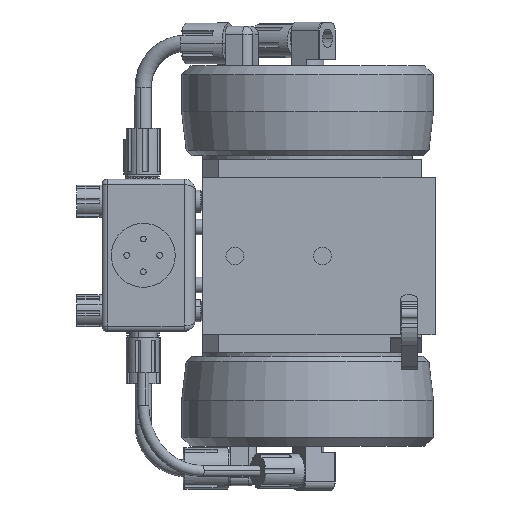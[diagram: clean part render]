
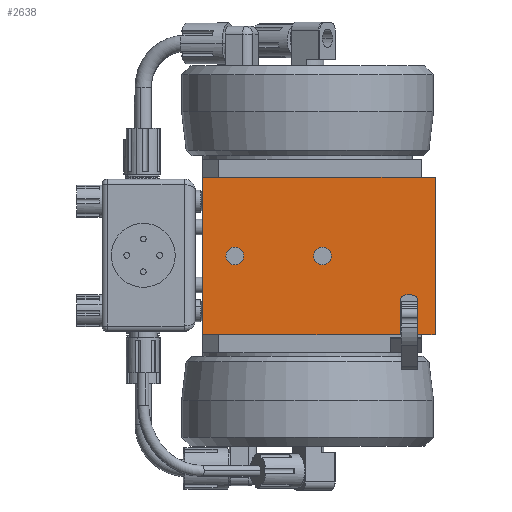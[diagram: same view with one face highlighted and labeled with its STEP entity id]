
A CAD part, front view. The second image highlights one B-rep face of the part: STEP entity #2638.
In plain terms, the highlighted planar face has unit normal (0, -1, 0).
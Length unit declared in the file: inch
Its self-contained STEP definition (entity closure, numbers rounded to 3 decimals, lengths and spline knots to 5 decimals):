
#2638 = ADVANCED_FACE ( 'NONE', ( #23631, #23601, #23636 ), #34242, .T. ) ;
#8516 = AXIS2_PLACEMENT_3D ( 'NONE', #34240, #34238, #34243 ) ;
#9225 = EDGE_CURVE ( 'NONE', #39671, #39319, #30497, .T. ) ;
#9229 = EDGE_CURVE ( 'NONE', #39237, #39551, #30499, .T. ) ;
#9232 = EDGE_CURVE ( 'NONE', #39376, #39520, #30500, .T. ) ;
#9235 = EDGE_CURVE ( 'NONE', #39497, #39520, #30501, .T. ) ;
#9238 = EDGE_CURVE ( 'NONE', #39497, #39506, #30503, .T. ) ;
#9241 = EDGE_CURVE ( 'NONE', #39506, #39348, #30505, .T. ) ;
#9244 = EDGE_CURVE ( 'NONE', #39348, #39526, #30507, .T. ) ;
#9248 = EDGE_CURVE ( 'NONE', #39526, #39406, #30491, .T. ) ;
#9252 = EDGE_CURVE ( 'NONE', #39406, #39395, #30510, .T. ) ;
#9255 = EDGE_CURVE ( 'NONE', #39331, #39395, #30508, .T. ) ;
#9258 = EDGE_CURVE ( 'NONE', #39524, #39331, #30511, .T. ) ;
#9261 = EDGE_CURVE ( 'NONE', #39376, #39524, #30515, .T. ) ;
#11066 = EDGE_LOOP ( 'NONE', ( #46380, #46381 ) ) ;
#11183 = EDGE_LOOP ( 'NONE', ( #46378, #46379 ) ) ;
#11225 = EDGE_LOOP ( 'NONE', ( #46382, #46383, #46384, #46385, #46386, #46387, #46388, #46389, #46390, #46391 ) ) ;
#16047 = EDGE_CURVE ( 'NONE', #39319, #39671, #16440, .T. ) ;
#16052 = EDGE_CURVE ( 'NONE', #39551, #39237, #16451, .T. ) ;
#16440 = CIRCLE ( 'NONE', #38559, 0.203 ) ;
#16451 = CIRCLE ( 'NONE', #38561, 0.203 ) ;
#23601 = FACE_BOUND ( 'NONE', #11066, .T. ) ;
#23631 = FACE_BOUND ( 'NONE', #11183, .T. ) ;
#23636 = FACE_OUTER_BOUND ( 'NONE', #11225, .T. ) ;
#30491 = CIRCLE ( 'NONE', #38178, 0.125 ) ;
#30497 = CIRCLE ( 'NONE', #38175, 0.203 ) ;
#30499 = CIRCLE ( 'NONE', #38176, 0.203 ) ;
#30500 = LINE ( 'NONE', #40375, #30502 ) ;
#30501 = LINE ( 'NONE', #40352, #30504 ) ;
#30502 = VECTOR ( 'NONE', #40377, 39.37008 ) ;
#30503 = LINE ( 'NONE', #40386, #30506 ) ;
#30504 = VECTOR ( 'NONE', #40368, 39.37008 ) ;
#30505 = CIRCLE ( 'NONE', #38177, 0.125 ) ;
#30506 = VECTOR ( 'NONE', #40384, 39.37008 ) ;
#30507 = LINE ( 'NONE', #40392, #30509 ) ;
#30508 = LINE ( 'NONE', #40406, #30514 ) ;
#30509 = VECTOR ( 'NONE', #40390, 39.37008 ) ;
#30510 = LINE ( 'NONE', #40408, #30512 ) ;
#30511 = LINE ( 'NONE', #40415, #30516 ) ;
#30512 = VECTOR ( 'NONE', #40404, 39.37008 ) ;
#30514 = VECTOR ( 'NONE', #40416, 39.37008 ) ;
#30515 = LINE ( 'NONE', #40421, #30518 ) ;
#30516 = VECTOR ( 'NONE', #40395, 39.37008 ) ;
#30518 = VECTOR ( 'NONE', #40419, 39.37008 ) ;
#34238 = DIRECTION ( 'NONE',  ( 0., -1., 0. ) ) ;
#34240 = CARTESIAN_POINT ( 'NONE',  ( -2.898, -3.023, 1.795 ) ) ;
#34242 = PLANE ( 'NONE',  #8516 ) ;
#34243 = DIRECTION ( 'NONE',  ( 0., 0., -1. ) ) ;
#38175 = AXIS2_PLACEMENT_3D ( 'NONE', #40370, #40372, #40373 ) ;
#38176 = AXIS2_PLACEMENT_3D ( 'NONE', #40378, #40380, #40382 ) ;
#38177 = AXIS2_PLACEMENT_3D ( 'NONE', #40397, #40399, #40401 ) ;
#38178 = AXIS2_PLACEMENT_3D ( 'NONE', #40409, #40411, #40413 ) ;
#38559 = AXIS2_PLACEMENT_3D ( 'NONE', #51960, #51961, #51962 ) ;
#38561 = AXIS2_PLACEMENT_3D ( 'NONE', #51968, #51969, #51970 ) ;
#39237 = VERTEX_POINT ( 'NONE', #49392 ) ;
#39319 = VERTEX_POINT ( 'NONE', #49474 ) ;
#39331 = VERTEX_POINT ( 'NONE', #49486 ) ;
#39348 = VERTEX_POINT ( 'NONE', #49503 ) ;
#39376 = VERTEX_POINT ( 'NONE', #49531 ) ;
#39395 = VERTEX_POINT ( 'NONE', #56821 ) ;
#39406 = VERTEX_POINT ( 'NONE', #56838 ) ;
#39497 = VERTEX_POINT ( 'NONE', #56988 ) ;
#39506 = VERTEX_POINT ( 'NONE', #57004 ) ;
#39520 = VERTEX_POINT ( 'NONE', #57026 ) ;
#39524 = VERTEX_POINT ( 'NONE', #57034 ) ;
#39526 = VERTEX_POINT ( 'NONE', #57038 ) ;
#39551 = VERTEX_POINT ( 'NONE', #57077 ) ;
#39671 = VERTEX_POINT ( 'NONE', #57270 ) ;
#40352 = CARTESIAN_POINT ( 'NONE',  ( -2.898, -3.023, -1.795 ) ) ;
#40368 = DIRECTION ( 'NONE',  ( -1., 0., 0. ) ) ;
#40370 = CARTESIAN_POINT ( 'NONE',  ( 0.342, -3.023, 0. ) ) ;
#40372 = DIRECTION ( 'NONE',  ( 0., 1., 0. ) ) ;
#40373 = DIRECTION ( 'NONE',  ( 0., 0., 1. ) ) ;
#40375 = CARTESIAN_POINT ( 'NONE',  ( -2.398, -3.023, 1.795 ) ) ;
#40377 = DIRECTION ( 'NONE',  ( 0., 0., -1. ) ) ;
#40378 = CARTESIAN_POINT ( 'NONE',  ( -1.658, -3.023, 0. ) ) ;
#40380 = DIRECTION ( 'NONE',  ( 0., 1., 0. ) ) ;
#40382 = DIRECTION ( 'NONE',  ( 0., 0., 1. ) ) ;
#40384 = DIRECTION ( 'NONE',  ( 0., 0., 1. ) ) ;
#40386 = CARTESIAN_POINT ( 'NONE',  ( 2.119, -3.023, -1.795 ) ) ;
#40390 = DIRECTION ( 'NONE',  ( 1., 0., 0. ) ) ;
#40392 = CARTESIAN_POINT ( 'NONE',  ( 2.244, -3.023, -0.889 ) ) ;
#40395 = DIRECTION ( 'NONE',  ( 0., 0., -1. ) ) ;
#40397 = CARTESIAN_POINT ( 'NONE',  ( 2.244, -3.023, -1.014 ) ) ;
#40399 = DIRECTION ( 'NONE',  ( 0., 1., 0. ) ) ;
#40401 = DIRECTION ( 'NONE',  ( 0., 0., 1. ) ) ;
#40404 = DIRECTION ( 'NONE',  ( 0., 0., -1. ) ) ;
#40406 = CARTESIAN_POINT ( 'NONE',  ( -2.898, -3.023, -1.795 ) ) ;
#40408 = CARTESIAN_POINT ( 'NONE',  ( 2.505, -3.023, -1.014 ) ) ;
#40409 = CARTESIAN_POINT ( 'NONE',  ( 2.38, -3.023, -1.014 ) ) ;
#40411 = DIRECTION ( 'NONE',  ( 0., 1., 0. ) ) ;
#40413 = DIRECTION ( 'NONE',  ( 0., 0., 1. ) ) ;
#40415 = CARTESIAN_POINT ( 'NONE',  ( 2.912, -3.023, 1.795 ) ) ;
#40416 = DIRECTION ( 'NONE',  ( -1., 0., 0. ) ) ;
#40419 = DIRECTION ( 'NONE',  ( 1., 0., 0. ) ) ;
#40421 = CARTESIAN_POINT ( 'NONE',  ( -2.898, -3.023, 1.795 ) ) ;
#46378 = ORIENTED_EDGE ( 'NONE', *, *, #9225, .T. ) ;
#46379 = ORIENTED_EDGE ( 'NONE', *, *, #16047, .T. ) ;
#46380 = ORIENTED_EDGE ( 'NONE', *, *, #9229, .T. ) ;
#46381 = ORIENTED_EDGE ( 'NONE', *, *, #16052, .T. ) ;
#46382 = ORIENTED_EDGE ( 'NONE', *, *, #9232, .T. ) ;
#46383 = ORIENTED_EDGE ( 'NONE', *, *, #9235, .F. ) ;
#46384 = ORIENTED_EDGE ( 'NONE', *, *, #9238, .T. ) ;
#46385 = ORIENTED_EDGE ( 'NONE', *, *, #9241, .T. ) ;
#46386 = ORIENTED_EDGE ( 'NONE', *, *, #9244, .T. ) ;
#46387 = ORIENTED_EDGE ( 'NONE', *, *, #9248, .T. ) ;
#46388 = ORIENTED_EDGE ( 'NONE', *, *, #9252, .T. ) ;
#46389 = ORIENTED_EDGE ( 'NONE', *, *, #9255, .F. ) ;
#46390 = ORIENTED_EDGE ( 'NONE', *, *, #9258, .F. ) ;
#46391 = ORIENTED_EDGE ( 'NONE', *, *, #9261, .F. ) ;
#49392 = CARTESIAN_POINT ( 'NONE',  ( -1.658, -3.023, 0.203 ) ) ;
#49474 = CARTESIAN_POINT ( 'NONE',  ( 0.342, -3.023, -0.203 ) ) ;
#49486 = CARTESIAN_POINT ( 'NONE',  ( 2.912, -3.023, -1.795 ) ) ;
#49503 = CARTESIAN_POINT ( 'NONE',  ( 2.244, -3.023, -0.889 ) ) ;
#49531 = CARTESIAN_POINT ( 'NONE',  ( -2.398, -3.023, 1.795 ) ) ;
#51960 = CARTESIAN_POINT ( 'NONE',  ( 0.342, -3.023, 0. ) ) ;
#51961 = DIRECTION ( 'NONE',  ( 0., 1., 0. ) ) ;
#51962 = DIRECTION ( 'NONE',  ( 0., 0., 1. ) ) ;
#51968 = CARTESIAN_POINT ( 'NONE',  ( -1.658, -3.023, 0. ) ) ;
#51969 = DIRECTION ( 'NONE',  ( 0., 1., 0. ) ) ;
#51970 = DIRECTION ( 'NONE',  ( 0., 0., 1. ) ) ;
#56821 = CARTESIAN_POINT ( 'NONE',  ( 2.505, -3.023, -1.795 ) ) ;
#56838 = CARTESIAN_POINT ( 'NONE',  ( 2.505, -3.023, -1.014 ) ) ;
#56988 = CARTESIAN_POINT ( 'NONE',  ( 2.119, -3.023, -1.795 ) ) ;
#57004 = CARTESIAN_POINT ( 'NONE',  ( 2.119, -3.023, -1.014 ) ) ;
#57026 = CARTESIAN_POINT ( 'NONE',  ( -2.398, -3.023, -1.795 ) ) ;
#57034 = CARTESIAN_POINT ( 'NONE',  ( 2.912, -3.023, 1.795 ) ) ;
#57038 = CARTESIAN_POINT ( 'NONE',  ( 2.38, -3.023, -0.889 ) ) ;
#57077 = CARTESIAN_POINT ( 'NONE',  ( -1.658, -3.023, -0.203 ) ) ;
#57270 = CARTESIAN_POINT ( 'NONE',  ( 0.342, -3.023, 0.203 ) ) ;
